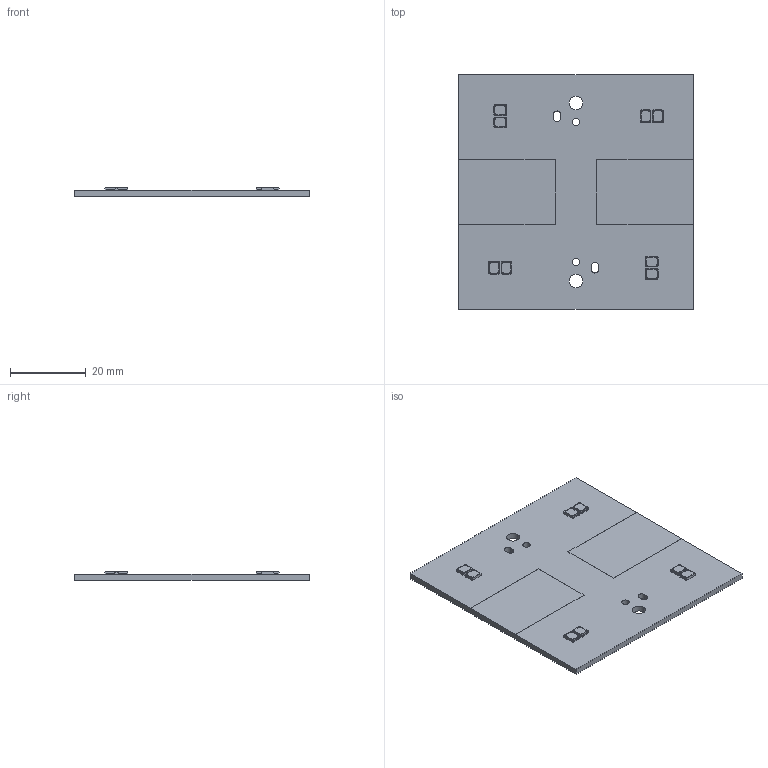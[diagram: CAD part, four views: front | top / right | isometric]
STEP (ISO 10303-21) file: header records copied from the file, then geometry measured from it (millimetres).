
FILE_DESCRIPTION(('CATIA V5 STEP Exchange'),'2;1');
FILE_NAME('C:\Users\jouko.kotitalo\Desktop\pdf_exports\PWB_2x2.stp','2018-11-05T13:17:49+00:00',('none'),('none'),'CATIA Version 5-6 Release 2013 SP4','CATIA V5 STEP AP203','none');
FILE_SCHEMA(('CONFIG_CONTROL_DESIGN'));
Length unit declared in the file: millimetre
Products named in the file (1): Daisy PWB 2x2
Bounding box: 62 x 62 x 2.35 mm (x, y, z)
Volume: 6166.7 mm3; surface area: 8324 mm2
Topology: 9 solids, 9 shells, 566 faces, 1624 edges, 1085 vertices
Faces by surface type: plane 346, cylinder 124, extrusion 96
Entity records: 20042 total; most frequent: CARTESIAN_POINT 6233, ORIENTED_EDGE 3240, DIRECTION 2120, EDGE_CURVE 1620, VECTOR 1280, LINE 1184, VERTEX_POINT 1080, EDGE_LOOP 586
